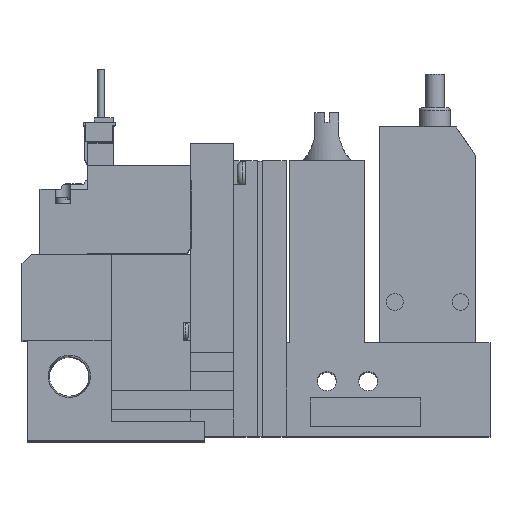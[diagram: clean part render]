
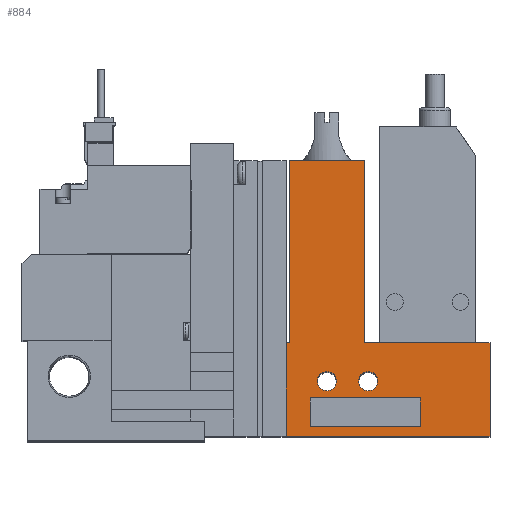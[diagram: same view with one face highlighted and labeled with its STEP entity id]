
A CAD part, top view. The second image highlights one B-rep face of the part: STEP entity #884.
In plain terms, the highlighted planar face has unit normal (0, 0, 1).
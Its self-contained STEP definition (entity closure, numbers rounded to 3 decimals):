
#884=ADVANCED_FACE('',(#1791,#1792,#1793,#1794),#1795,.T.);
#1791=FACE_BOUND('',#2997,.T.);
#1792=FACE_BOUND('',#2998,.T.);
#1793=FACE_BOUND('',#2999,.T.);
#1794=FACE_OUTER_BOUND('',#3000,.T.);
#1795=PLANE('',#3001);
#2997=EDGE_LOOP('',(#6266,#6267,#6268,#6269));
#2998=EDGE_LOOP('',(#6270));
#2999=EDGE_LOOP('',(#6271));
#3000=EDGE_LOOP('',(#6272,#6273,#6274,#6275,#6276,#6277,#6278,#6279));
#3001=AXIS2_PLACEMENT_3D('',#6280,#6281,#6282);
#6266=ORIENTED_EDGE('',*,*,#8392,.T.);
#6267=ORIENTED_EDGE('',*,*,#8393,.T.);
#6268=ORIENTED_EDGE('',*,*,#8116,.T.);
#6269=ORIENTED_EDGE('',*,*,#8375,.T.);
#6270=ORIENTED_EDGE('',*,*,#8335,.T.);
#6271=ORIENTED_EDGE('',*,*,#8381,.T.);
#6272=ORIENTED_EDGE('',*,*,#8394,.F.);
#6273=ORIENTED_EDGE('',*,*,#8359,.T.);
#6274=ORIENTED_EDGE('',*,*,#8395,.T.);
#6275=ORIENTED_EDGE('',*,*,#8384,.T.);
#6276=ORIENTED_EDGE('',*,*,#8300,.T.);
#6277=ORIENTED_EDGE('',*,*,#8390,.T.);
#6278=ORIENTED_EDGE('',*,*,#8367,.T.);
#6279=ORIENTED_EDGE('',*,*,#8396,.T.);
#6280=CARTESIAN_POINT('',(0.0,0.0,10.0));
#6281=DIRECTION('',(0.0,0.0,1.0));
#6282=DIRECTION('',(1.0,0.0,0.0));
#8116=EDGE_CURVE('',#9789,#9794,#9796,.T.);
#8300=EDGE_CURVE('',#10122,#10120,#10123,.T.);
#8335=EDGE_CURVE('',#10177,#10177,#10178,.T.);
#8359=EDGE_CURVE('',#10210,#10208,#10211,.T.);
#8367=EDGE_CURVE('',#10224,#10222,#10225,.T.);
#8375=EDGE_CURVE('',#9794,#10233,#10235,.T.);
#8381=EDGE_CURVE('',#10243,#10243,#10244,.T.);
#8384=EDGE_CURVE('',#10248,#10122,#10249,.T.);
#8390=EDGE_CURVE('',#10120,#10224,#10256,.T.);
#8392=EDGE_CURVE('',#10233,#10258,#10259,.T.);
#8393=EDGE_CURVE('',#10258,#9789,#10260,.T.);
#8394=EDGE_CURVE('',#10210,#10261,#10262,.T.);
#8395=EDGE_CURVE('',#10208,#10248,#10263,.T.);
#8396=EDGE_CURVE('',#10222,#10261,#10264,.T.);
#9789=VERTEX_POINT('',#12517);
#9794=VERTEX_POINT('',#12524);
#9796=LINE('',#12527,#12528);
#10120=VERTEX_POINT('',#13046);
#10122=VERTEX_POINT('',#13049);
#10123=LINE('',#13050,#13051);
#10177=VERTEX_POINT('',#13158);
#10178=CIRCLE('',#13159,2.0);
#10208=VERTEX_POINT('',#13210);
#10210=VERTEX_POINT('',#13213);
#10211=LINE('',#13214,#13215);
#10222=VERTEX_POINT('',#13232);
#10224=VERTEX_POINT('',#13235);
#10225=LINE('',#13236,#13237);
#10233=VERTEX_POINT('',#13251);
#10235=LINE('',#13254,#13255);
#10243=VERTEX_POINT('',#13266);
#10244=CIRCLE('',#13267,2.0);
#10248=VERTEX_POINT('',#13272);
#10249=LINE('',#13273,#13274);
#10256=LINE('',#13286,#13287);
#10258=VERTEX_POINT('',#13289);
#10259=LINE('',#13290,#13291);
#10260=LINE('',#13292,#13293);
#10261=VERTEX_POINT('',#13294);
#10262=LINE('',#13295,#13296);
#10263=LINE('',#13297,#13298);
#10264=LINE('',#13299,#13300);
#12517=CARTESIAN_POINT('',(83.1,8.0,10.0));
#12524=CARTESIAN_POINT('',(83.1,2.0,10.0));
#12527=CARTESIAN_POINT('',(83.1,0.0,10.0));
#12528=VECTOR('',#15039,1.0);
#13046=CARTESIAN_POINT('',(71.45,57.5,10.0));
#13049=CARTESIAN_POINT('',(71.45,19.5,10.0));
#13050=CARTESIAN_POINT('',(71.45,19.5,10.0));
#13051=VECTOR('',#15250,1.0);
#13158=CARTESIAN_POINT('',(65.6,11.5,10.0));
#13159=AXIS2_PLACEMENT_3D('',#15290,#15291,#15292);
#13210=CARTESIAN_POINT('',(97.6,0.0,10.0));
#13213=CARTESIAN_POINT('',(55.1,0.0,10.0));
#13214=CARTESIAN_POINT('',(18.6,0.0,10.0));
#13215=VECTOR('',#15318,1.0);
#13232=CARTESIAN_POINT('',(55.75,19.5,10.0));
#13235=CARTESIAN_POINT('',(55.75,57.5,10.0));
#13236=CARTESIAN_POINT('',(55.75,57.5,10.0));
#13237=VECTOR('',#15326,1.0);
#13251=CARTESIAN_POINT('',(60.1,2.0,10.0));
#13254=CARTESIAN_POINT('',(0.0,2.0,10.0));
#13255=VECTOR('',#15334,1.0);
#13266=CARTESIAN_POINT('',(74.2,11.5,10.0));
#13267=AXIS2_PLACEMENT_3D('',#15344,#15345,#15346);
#13272=CARTESIAN_POINT('',(97.6,19.5,10.0));
#13273=CARTESIAN_POINT('',(97.6,19.5,10.0));
#13274=VECTOR('',#15351,1.0);
#13286=CARTESIAN_POINT('',(71.45,57.5,10.0));
#13287=VECTOR('',#15357,1.0);
#13289=CARTESIAN_POINT('',(60.1,8.0,10.0));
#13290=CARTESIAN_POINT('',(60.1,0.0,10.0));
#13291=VECTOR('',#15361,1.0);
#13292=CARTESIAN_POINT('',(0.0,8.0,10.0));
#13293=VECTOR('',#15362,1.0);
#13294=CARTESIAN_POINT('',(55.1,19.5,10.0));
#13295=CARTESIAN_POINT('',(55.1,0.0,10.0));
#13296=VECTOR('',#15363,1.0);
#13297=CARTESIAN_POINT('',(97.6,0.0,10.0));
#13298=VECTOR('',#15364,1.0);
#13299=CARTESIAN_POINT('',(55.75,19.5,10.0));
#13300=VECTOR('',#15365,1.0);
#15039=DIRECTION('',(0.0,-1.0,0.0));
#15250=DIRECTION('',(0.0,1.0,0.0));
#15290=CARTESIAN_POINT('',(63.6,11.5,10.0));
#15291=DIRECTION('',(0.0,0.0,-1.0));
#15292=DIRECTION('',(1.0,0.0,0.0));
#15318=DIRECTION('',(1.0,0.0,0.0));
#15326=DIRECTION('',(0.0,-1.0,0.0));
#15334=DIRECTION('',(-1.0,0.0,0.0));
#15344=CARTESIAN_POINT('',(72.2,11.5,10.0));
#15345=DIRECTION('',(0.0,0.0,-1.0));
#15346=DIRECTION('',(1.0,0.0,0.0));
#15351=DIRECTION('',(-1.0,0.0,0.0));
#15357=DIRECTION('',(-1.0,0.0,0.0));
#15361=DIRECTION('',(0.0,1.0,0.0));
#15362=DIRECTION('',(1.0,0.0,0.0));
#15363=DIRECTION('',(0.0,1.0,0.0));
#15364=DIRECTION('',(0.0,1.0,0.0));
#15365=DIRECTION('',(-1.0,0.0,0.0));
